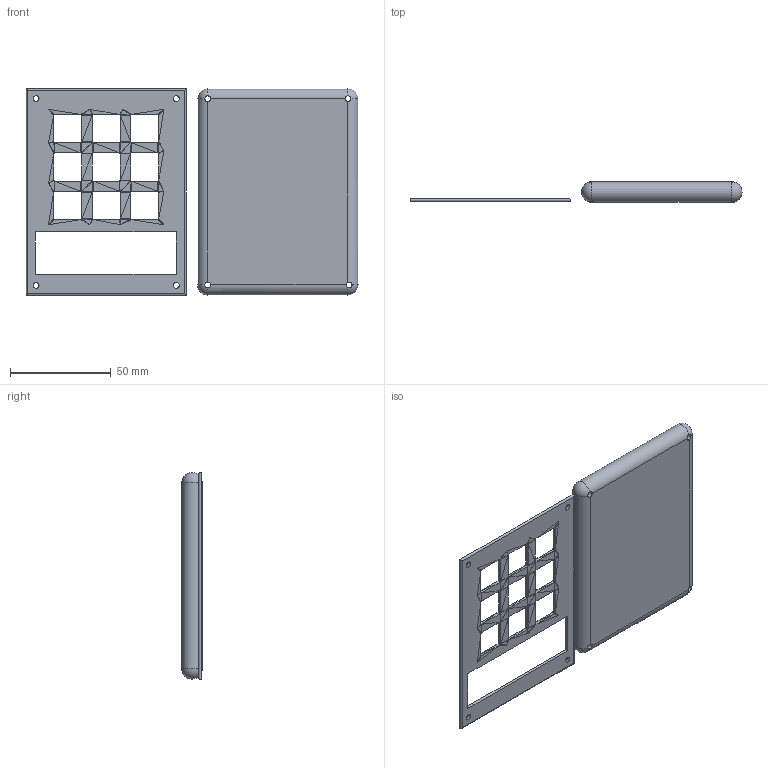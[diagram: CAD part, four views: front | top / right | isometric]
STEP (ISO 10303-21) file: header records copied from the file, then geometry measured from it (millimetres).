
FILE_DESCRIPTION(/* description */ (''),/* implementation_level */ '2;1');
FILE_NAME(/* name */ 'CloudPad Case.step',/* time_stamp */ '2026-08-13T21:43:11-04:00',/* author */ (''),/* organization */ (''),/* preprocessor_version */ 'ST-DEVELOPER v20.1',/* originating_system */ 'Autodesk Translation Framework v15.8.0.0',/* authorisation */ '');
FILE_SCHEMA (('AUTOMOTIVE_DESIGN { 1 0 10303 214 3 1 1 }'));
Length unit declared in the file: millimetre
Products named in the file (3): 2026-08-13-19-27-08-552; 2026-08-13-21-35-08-594; 2026-08-13-21-35-00-432
Assembly tree (2 placements, depth 2):
  2026-08-13-19-27-08-552
    2026-08-13-21-35-08-594
    2026-08-13-21-35-00-432
Bounding box: 164.42 x 10 x 102.4 mm (x, y, z)
Volume: 49584.5 mm3; surface area: 31604.9 mm2
Topology: 2 solids, 2 shells, 1652 faces, 2560 edges, 888 vertices
Faces by surface type: plane 1632, cylinder 16, sphere 4
Full cylindrical faces by diameter (mm): 2.9 x8
Entity records: 33207 total; most frequent: DIRECTION 5892, CARTESIAN_POINT 5279, ORIENTED_EDGE 5120, EDGE_CURVE 2560, LINE 2506, VECTOR 2506, AXIS2_PLACEMENT_3D 1693, EDGE_LOOP 1664
